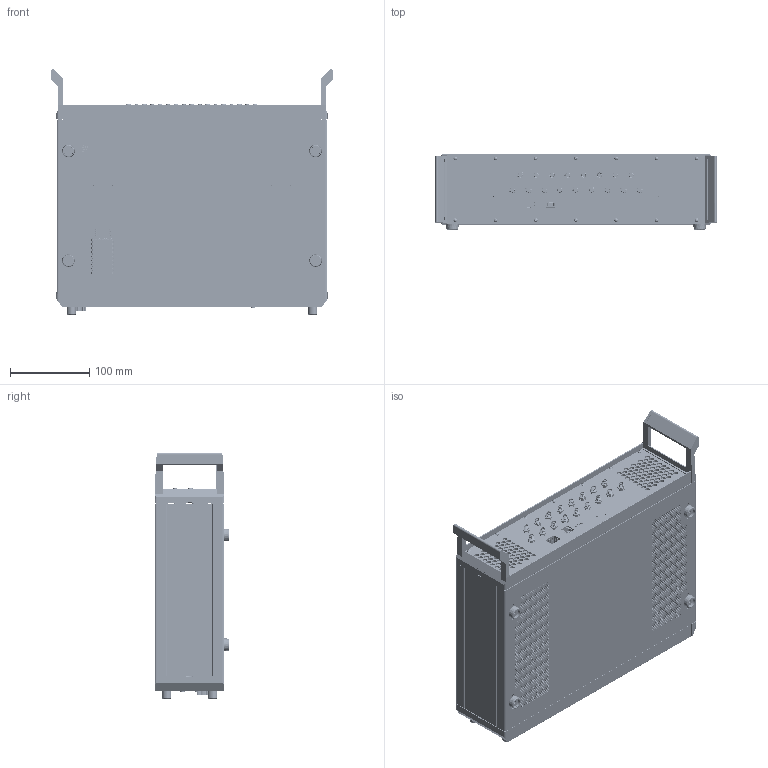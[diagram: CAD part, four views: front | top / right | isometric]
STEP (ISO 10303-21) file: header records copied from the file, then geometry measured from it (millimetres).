
FILE_DESCRIPTION (( 'STEP AP203' ), '1' );
FILE_NAME ('PQ.089.1016.0001.12_HH500_M_16CH.STEP', '2026-03-20T09:29:54', ( '' ), ( '' ), 'SwSTEP 2.0', 'SolidWorks 2025', '' );
FILE_SCHEMA (( 'CONFIG_CONTROL_DESIGN' ));
Products named in the file (1): PQ.089.1016.0001.12_HH500_M_16CH
Bounding box: 355.42 x 94.5 x 310.45 mm (x, y, z)
Surface area: 615268.5 mm2 (no closed solid volume)
Topology: 0 solids, 490 shells, 8533 faces, 30961 edges, 22611 vertices
Faces by surface type: cylinder 4859, plane 3166, cone 354, bspline 108, sphere 31, torus 15
Full cylindrical faces by diameter (mm): 0.762 x1, 1 x15, 1.3 x2, 2 x2524, 2.261 x2, 2.528 x2, 3 x7, 3.2 x12, 3.245 x4, 3.4 x9, 3.5 x3, 3.6 x2, 3.7 x3, 3.8 x8, 3.9 x4, 4 x9, 4.089 x8, 4.5 x15, 4.61 x12, 4.674 x9, 4.7 x3, 4.71 x3, 4.8 x21, 5.35 x12, 5.385 x9, 5.451 x22, 5.5 x14, 5.7 x14, 7 x4, 7.5 x2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
Entity records: 319385 total; most frequent: CARTESIAN_POINT 72684, DIRECTION 51957, ORIENTED_EDGE 42778, EDGE_CURVE 25611, VERTEX_POINT 20238, AXIS2_PLACEMENT_3D 19573, EDGE_LOOP 15320, VECTOR 12811
